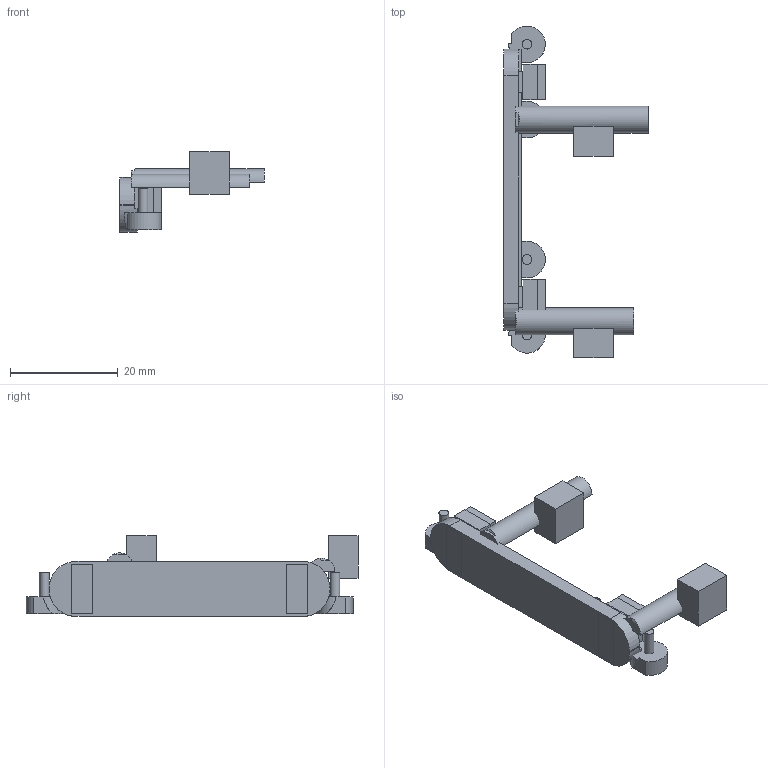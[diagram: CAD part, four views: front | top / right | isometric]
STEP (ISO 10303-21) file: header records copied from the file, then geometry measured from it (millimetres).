
FILE_DESCRIPTION(('Open CASCADE Model'),'2;1');
FILE_NAME('Open CASCADE Shape Model','2026-09-15T13:41:18',('Author'),( 'Open CASCADE'),'Open CASCADE STEP processor 7.7','Open CASCADE 7.7' ,'Unknown');
FILE_SCHEMA(('AUTOMOTIVE_DESIGN { 1 0 10303 214 1 1 1 1 }'));
Length unit declared in the file: millimetre
Products named in the file (24): ASSEMBLY; SOLID
Assembly tree (23 placements, depth 2):
  ASSEMBLY
    SOLID
    SOLID
    SOLID
    SOLID
    SOLID
    SOLID
    SOLID
    SOLID
    SOLID
    SOLID
    SOLID
    SOLID
    SOLID
    SOLID
    SOLID
    SOLID
    SOLID
    SOLID
    SOLID
    SOLID
    SOLID
    SOLID
    SOLID
Bounding box: 26.8 x 61.69 x 15 mm (x, y, z)
Volume: 3863.9 mm3; surface area: 4752 mm2
Topology: 23 solids, 23 shells, 132 faces, 258 edges, 172 vertices
Faces by surface type: plane 113, cylinder 19
Full cylindrical faces by diameter (mm): 1.8 x4, 6.8 x2
Entity records: 7319 total; most frequent: CARTESIAN_POINT 1570, DIRECTION 1016, LINE 609, VECTOR 609, ORIENTED_EDGE 516, PCURVE 516, DEFINITIONAL_REPRESENTATION 516, EDGE_CURVE 258
